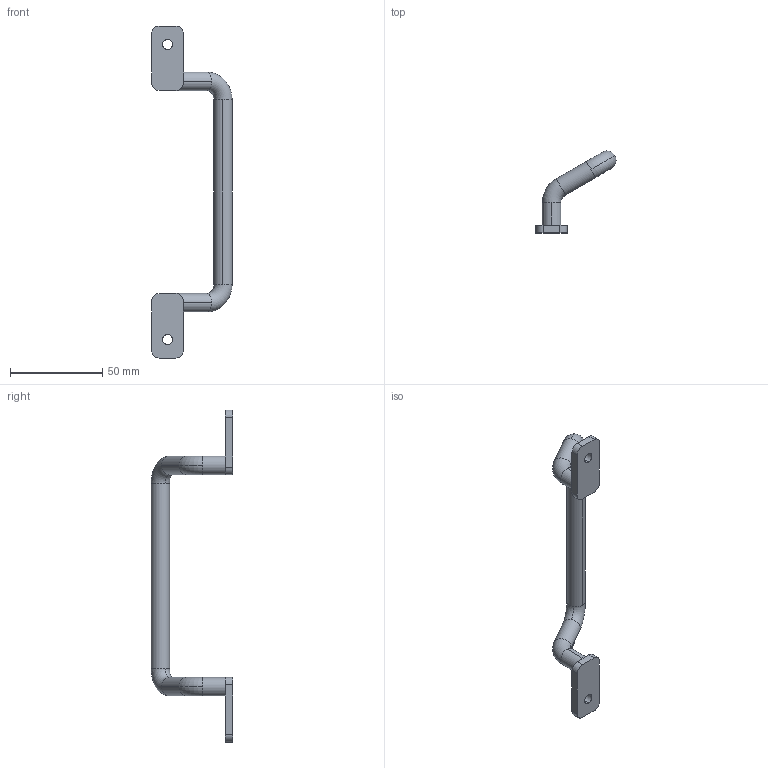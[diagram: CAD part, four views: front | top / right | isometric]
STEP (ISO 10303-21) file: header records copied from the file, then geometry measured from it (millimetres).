
FILE_DESCRIPTION (( 'STEP AP203' ), '1' );
FILE_NAME ('E20-20160.STEP', '2024-10-29T07:56:58', ( '' ), ( '' ), 'SwSTEP 2.0', 'SolidWorks 2021', '' );
FILE_SCHEMA (( 'CONFIG_CONTROL_DESIGN' ));
Length unit declared in the file: millimetre
Products named in the file (1): E20-20160
Bounding box: 43.5 x 44.32 x 180 mm (x, y, z)
Volume: 21310.6 mm3; surface area: 9728.5 mm2
Topology: 1 solids, 1 shells, 42 faces, 112 edges, 72 vertices
Faces by surface type: cylinder 22, plane 12, torus 8
Entity records: 1421 total; most frequent: DIRECTION 262, CARTESIAN_POINT 227, ORIENTED_EDGE 224, EDGE_CURVE 112, AXIS2_PLACEMENT_3D 107, VERTEX_POINT 72, CIRCLE 64, LINE 48
